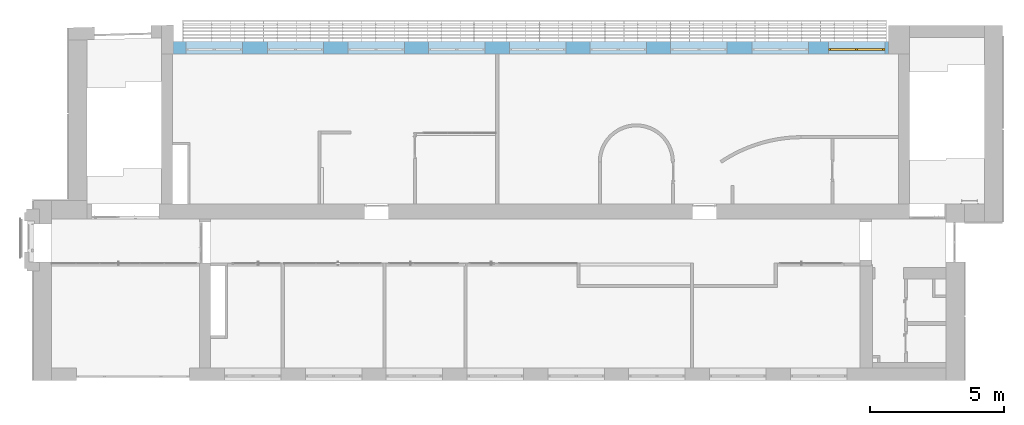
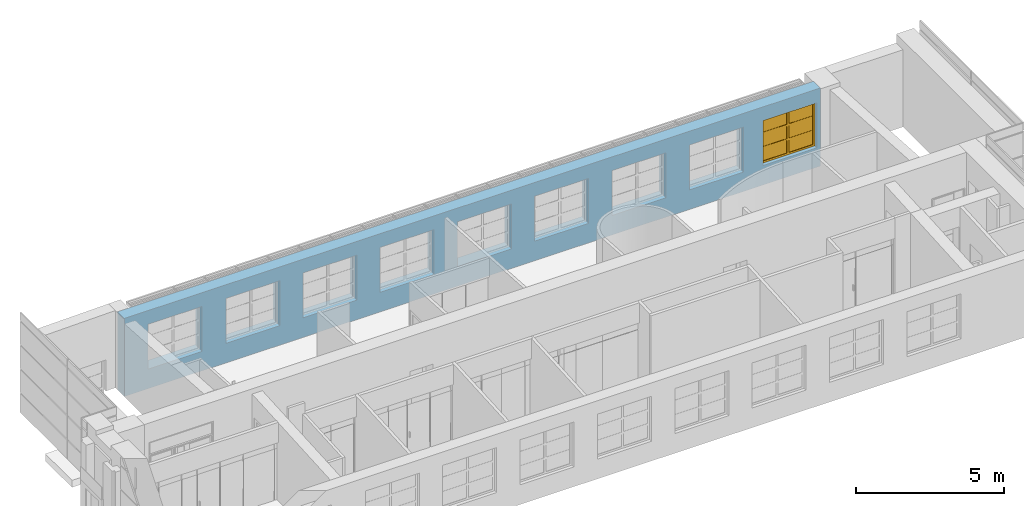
# One storey, part 38 of 46: 1 window, 9 openings, plus 1 element that does not belong to this part.
"""IFC2X3 building model written with IfcOpenShell, lengths in millimetres."""

from ifc_helpers import new_model, entity, si_unit, converted_unit, derived_unit, direction, frame, frame_2d, origin, origin_2d_with_axis, place, context, subcontext, project, spatial, rectangle, extrude, face_set, surface_model, source, transform, mapped, material, material_list, layer, layer_set, layer_usage, type_object, type_shapes, element, fill, save


model = new_model("IFC2X3")

# Units and contexts
model_context = context("Model", 3, precision=0.01, world=origin(), true_north=direction((6.12303176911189e-17, 1.0)))
body_context = subcontext(model_context, "Body", "Model", "MODEL_VIEW")
ifc_project = project(units=[si_unit("LENGTHUNIT", "METRE", prefix="MILLI"), si_unit("AREAUNIT", "SQUARE_METRE"), si_unit("VOLUMEUNIT", "CUBIC_METRE"), converted_unit("PLANEANGLEUNIT", "DEGREE", entity("IfcRatioMeasure", 0.0174532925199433), si_unit("PLANEANGLEUNIT", "RADIAN"), dimensions=[0, 0, 0, 0, 0, 0, 0]), si_unit("MASSUNIT", "GRAM", prefix="KILO"), derived_unit("MASSDENSITYUNIT", [(si_unit("MASSUNIT", "GRAM", prefix="KILO"), 1), (si_unit("LENGTHUNIT", "METRE"), -3)]), si_unit("TIMEUNIT", "SECOND"), si_unit("FREQUENCYUNIT", "HERTZ"), si_unit("THERMODYNAMICTEMPERATUREUNIT", "DEGREE_CELSIUS"), derived_unit("THERMALTRANSMITTANCEUNIT", [(si_unit("MASSUNIT", "GRAM", prefix="KILO"), 1), (si_unit("THERMODYNAMICTEMPERATUREUNIT", "KELVIN"), -1), (si_unit("TIMEUNIT", "SECOND"), -3)]), derived_unit("VOLUMETRICFLOWRATEUNIT", [(si_unit("LENGTHUNIT", "METRE"), 3), (si_unit("TIMEUNIT", "SECOND"), -1)]), si_unit("ELECTRICCURRENTUNIT", "AMPERE"), si_unit("ELECTRICVOLTAGEUNIT", "VOLT"), si_unit("POWERUNIT", "WATT"), si_unit("FORCEUNIT", "NEWTON", prefix="KILO"), si_unit("ILLUMINANCEUNIT", "LUX"), si_unit("LUMINOUSFLUXUNIT", "LUMEN"), si_unit("LUMINOUSINTENSITYUNIT", "CANDELA"), derived_unit("USERDEFINED", [(si_unit("MASSUNIT", "GRAM", prefix="KILO"), -1), (si_unit("LENGTHUNIT", "METRE"), -2), (si_unit("TIMEUNIT", "SECOND"), 3), (si_unit("LUMINOUSFLUXUNIT", "LUMEN"), 1)]), derived_unit("LINEARVELOCITYUNIT", [(si_unit("LENGTHUNIT", "METRE"), 1), (si_unit("TIMEUNIT", "SECOND"), -1)]), si_unit("PRESSUREUNIT", "PASCAL"), derived_unit("USERDEFINED", [(si_unit("LENGTHUNIT", "METRE"), -2), (si_unit("MASSUNIT", "GRAM", prefix="KILO"), 1), (si_unit("TIMEUNIT", "SECOND"), -2)])], contexts=[model_context])

# Site, building, storey
site_placement = place(None, frame((-151.875543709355, 2715.0, 0.0)))
site = spatial("IfcSite", under=ifc_project, at=site_placement, Name="Surface", CompositionType="ELEMENT")
building_placement = place(site_placement, origin())
building = spatial("IfcBuilding", under=site, at=building_placement, CompositionType="ELEMENT")
storey_placement = place(building_placement, frame((0.0, 0.0, 10060.0)))
storey = spatial("IfcBuildingStorey", under=building, at=storey_placement, Name="4 korrus", CompositionType="ELEMENT", Elevation=10060.0000000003)

# Wall, openings, window
ifc_material_1 = material(Name="Brick, Common")
ifc_layer_1 = layer(ifc_material_1, 440.0)
ifc_material_2 = material(Name="__Kips GN13_tava")
ifc_layer_2 = layer(ifc_material_2, 20.0)
ifc_layer_set = layer_set([ifc_layer_1, ifc_layer_2], Name="Basic Wall:VS-1")
ifc_layer_usage = layer_usage(ifc_layer_set, "AXIS2", "POSITIVE", -230.0)
wall_type = type_object("IfcWallType", Name="Basic Wall:VS-1", PredefinedType="STANDARD", material=ifc_layer_set)
wall_placement = place(storey_placement, frame((31602.6162682, 12380.0, 0.0), z_axis=(0.0, 0.0, 1.0), x_axis=(-1.0, 0.0, 0.0)))
wall = element("IfcWallStandardCase", 1, at=wall_placement, inside=storey, type_object=wall_type, material=ifc_layer_usage, Name="SEIN - 005", ObjectType="Basic Wall:VS-1", context=body_context, shape_type="SweptSolid", body=[
    extrude(rectangle(XDim=27061.7433388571, YDim=459.999999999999, at=frame_2d((13530.8716694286, 0.0), x_axis=(-1.0, 0.0))), origin(), (0.0, 0.0, 1.0), 3209.74134984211),
])
opening_1_placement = place(wall_placement, frame((31602.6162682, 12380.0, 0.0), z_axis=(0.0, 0.0, 1.0), x_axis=(-1.0, 0.0, 0.0)))
element("IfcOpeningElement", 2, at=opening_1_placement, cuts=wall, Name="SEIN - 005", ObjectType="Opening", context=body_context, shape_type="SweptSolid", body=[
    extrude(rectangle(XDim=1850.0, YDim=2100.0, at=frame_2d((0.0, -5.6843418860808e-13), x_axis=(1.0, 0.0))), frame((6512.84935535, 13077.9, 1725.0), z_axis=(0.0, -1.0, 0.0), x_axis=(0.0, 0.0, 1.0)), (0.0, 0.0, 1.0), 1393.8),
])
opening_2_placement = place(wall_placement, frame((31602.6162682, 12380.0, 0.0), z_axis=(0.0, 0.0, 1.0), x_axis=(-1.0, 0.0, 0.0)))
element("IfcOpeningElement", 3, at=opening_2_placement, cuts=wall, Name="SEIN - 005", ObjectType="Opening", context=body_context, shape_type="SweptSolid", body=[
    extrude(rectangle(XDim=1850.0, YDim=2100.0, at=frame_2d((0.0, -1.02318153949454e-12), x_axis=(1.0, 0.0))), frame((9532.84935535, 13077.9, 1725.0), z_axis=(0.0, -1.0, 0.0), x_axis=(0.0, 0.0, 1.0)), (0.0, 0.0, 1.0), 1393.8),
])
opening_3_placement = place(wall_placement, frame((31602.6162682, 12380.0, 0.0), z_axis=(0.0, 0.0, 1.0), x_axis=(-1.0, 0.0, 0.0)))
element("IfcOpeningElement", 4, at=opening_3_placement, cuts=wall, Name="SEIN - 005", ObjectType="Opening", context=body_context, shape_type="SweptSolid", body=[
    extrude(rectangle(XDim=1850.0, YDim=2100.0, at=origin_2d_with_axis()), frame((12532.84935535, 13077.9, 1725.0), z_axis=(0.0, -1.0, 0.0), x_axis=(0.0, 0.0, 1.0)), (0.0, 0.0, 1.0), 1393.8),
])
opening_4_placement = place(wall_placement, frame((31602.6162682, 12380.0, 0.0), z_axis=(0.0, 0.0, 1.0), x_axis=(-1.0, 0.0, 0.0)))
element("IfcOpeningElement", 5, at=opening_4_placement, cuts=wall, Name="SEIN - 005", ObjectType="Opening", context=body_context, shape_type="SweptSolid", body=[
    extrude(rectangle(XDim=1850.0, YDim=2100.0, at=origin_2d_with_axis()), frame((15532.84935531, 13077.9, 1725.0), z_axis=(0.0, -1.0, 0.0), x_axis=(0.0, 0.0, 1.0)), (0.0, 0.0, 1.0), 1393.8),
])
opening_5_placement = place(wall_placement, frame((31602.6162682, 12380.0, 0.0), z_axis=(0.0, 0.0, 1.0), x_axis=(-1.0, 0.0, 0.0)))
element("IfcOpeningElement", 6, at=opening_5_placement, cuts=wall, Name="SEIN - 005", ObjectType="Opening", context=body_context, shape_type="SweptSolid", body=[
    extrude(rectangle(XDim=1850.0, YDim=2100.0, at=origin_2d_with_axis()), frame((18542.84935531, 13077.9, 1725.0), z_axis=(0.0, -1.0, 0.0), x_axis=(0.0, 0.0, 1.0)), (0.0, 0.0, 1.0), 1393.8),
])
opening_6_placement = place(wall_placement, frame((31602.6162682, 12380.0, 0.0), z_axis=(0.0, 0.0, 1.0), x_axis=(-1.0, 0.0, 0.0)))
element("IfcOpeningElement", 7, at=opening_6_placement, cuts=wall, Name="SEIN - 005", ObjectType="Opening", context=body_context, shape_type="SweptSolid", body=[
    extrude(rectangle(XDim=1850.0, YDim=2100.0, at=origin_2d_with_axis()), frame((21543.05309771, 13077.9, 1725.0), z_axis=(0.0, -1.0, 0.0), x_axis=(0.0, 0.0, 1.0)), (0.0, 0.0, 1.0), 1393.8),
])
opening_7_placement = place(wall_placement, frame((31602.6162682, 12380.0, 0.0), z_axis=(0.0, 0.0, 1.0), x_axis=(-1.0, 0.0, 0.0)))
element("IfcOpeningElement", 8, at=opening_7_placement, cuts=wall, Name="SEIN - 005", ObjectType="Opening", context=body_context, shape_type="SweptSolid", body=[
    extrude(rectangle(XDim=1850.0, YDim=2100.0, at=origin_2d_with_axis()), frame((24543.05309771, 13077.9, 1725.0), z_axis=(0.0, -1.0, 0.0), x_axis=(0.0, 0.0, 1.0)), (0.0, 0.0, 1.0), 1393.8),
])
opening_8_placement = place(wall_placement, frame((31602.6162682, 12380.0, 0.0), z_axis=(0.0, 0.0, 1.0), x_axis=(-1.0, 0.0, 0.0)))
element("IfcOpeningElement", 9, at=opening_8_placement, cuts=wall, Name="SEIN - 005", ObjectType="Opening", context=body_context, shape_type="SweptSolid", body=[
    extrude(rectangle(XDim=1850.0, YDim=2100.0, at=frame_2d((0.0, 4.32009983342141e-12), x_axis=(1.0, 0.0))), frame((27563.05309771, 13077.9, 1725.0), z_axis=(0.0, -1.0, 0.0), x_axis=(0.0, 0.0, 1.0)), (0.0, 0.0, 1.0), 1393.8),
])
opening_9_placement = place(wall_placement, frame((31602.6162682, 12380.0, 0.0), z_axis=(0.0, 0.0, 1.0), x_axis=(-1.0, 0.0, 0.0)))
opening_9 = element("IfcOpeningElement", 10, at=opening_9_placement, cuts=wall, Name="SEIN - 005", ObjectType="Opening", context=body_context, shape_type="SweptSolid", body=[
    extrude(rectangle(XDim=1850.0, YDim=2100.0, at=origin_2d_with_axis()), frame((30412.57293081, 13077.9, 1725.0), z_axis=(0.0, -1.0, 0.0), x_axis=(0.0, 0.0, 1.0)), (0.0, 0.0, 1.0), 1393.8),
])
ifc_material_3 = material(Name="Paint - Titanium White")
ifc_material_4 = material(Name="Paint - Dark Gray")
ifc_material_5 = material(Name="Glass - Clear Fast")
ifc_material_list_1 = material_list([ifc_material_3, ifc_material_4, ifc_material_5])
ifc_material_list_2 = material_list([ifc_material_3, ifc_material_4, ifc_material_5])
window_style = type_object("IfcWindowStyle", Name="Aken_1850x2100", ConstructionType="NOTDEFINED", OperationType="DOUBLE_PANEL_VERTICAL", ParameterTakesPrecedence=False, Sizeable=False, material=ifc_material_list_2)
shared_shape = source(origin(), body_context, "Body", "SurfaceModel", [
    surface_model("IfcFaceBasedSurfaceModel", [(80.0, -665.9, 1770.0), (80.0, -620.9, 1770.0), (0.0, -620.9, 1770.0), (0.0, -665.9, 1770.0), (80.0, -665.9, 80.0), (80.0, -620.9, 80.0), (80.0, -620.9, 1770.0), (80.0, -665.9, 1770.0), (80.0, -620.9, 1770.0), (80.0, -620.9, 80.0), (0.0, -620.9, 80.0), (0.0, -620.9, 1770.0), (0.0, -665.9, 1770.0), (0.0, -620.9, 1770.0), (0.0, -620.9, 80.0), (0.0, -665.9, 80.0), (80.0, -665.9, 1770.0), (0.0, -665.9, 1770.0), (0.0, -665.9, 80.0), (80.0, -665.9, 80.0), (0.0, -665.9, 80.0), (0.0, -620.9, 80.0), (80.0, -620.9, 80.0), (80.0, -665.9, 80.0), (2020.0, -665.9, 80.0), (2020.0, -620.9, 80.0), (2100.0, -620.9, 80.0), (2100.0, -665.9, 80.0), (2020.0, -665.9, 1770.0), (2020.0, -620.9, 1770.0), (2020.0, -620.9, 80.0), (2020.0, -665.9, 80.0), (2020.0, -620.9, 80.0), (2020.0, -620.9, 1770.0), (2100.0, -620.9, 1770.0), (2100.0, -620.9, 80.0), (2100.0, -665.9, 80.0), (2100.0, -620.9, 80.0), (2100.0, -620.9, 1770.0), (2100.0, -665.9, 1770.0), (2020.0, -665.9, 80.0), (2100.0, -665.9, 80.0), (2100.0, -665.9, 1770.0), (2020.0, -665.9, 1770.0), (2100.0, -665.9, 1770.0), (2100.0, -620.9, 1770.0), (2020.0, -620.9, 1770.0), (2020.0, -665.9, 1770.0), (1010.0, -665.9, 80.0), (1010.0, -620.9, 80.0), (1090.0, -620.9, 80.0), (1090.0, -665.9, 80.0), (1010.0, -665.9, 1770.0), (1010.0, -620.9, 1770.0), (1010.0, -620.9, 80.0), (1010.0, -665.9, 80.0), (1010.0, -620.9, 80.0), (1010.0, -620.9, 1770.0), (1090.0, -620.9, 1770.0), (1090.0, -620.9, 80.0), (1090.0, -665.9, 80.0), (1090.0, -620.9, 80.0), (1090.0, -620.9, 1770.0), (1090.0, -665.9, 1770.0), (1010.0, -665.9, 80.0), (1090.0, -665.9, 80.0), (1090.0, -665.9, 1770.0), (1010.0, -665.9, 1770.0), (1090.0, -665.9, 1770.0), (1090.0, -620.9, 1770.0), (1010.0, -620.9, 1770.0), (1010.0, -665.9, 1770.0), (80.0, -665.9, 80.0), (80.0, -620.9, 80.0), (0.0, -620.9, 80.0), (0.0, -665.9, 80.0), (1010.0, -665.9, 80.0), (1010.0, -620.9, 80.0), (80.0, -620.9, 80.0), (80.0, -665.9, 80.0), (80.0, -620.9, 80.0), (1010.0, -620.9, 80.0), (1090.0, -620.9, 80.0), (2020.0, -620.9, 80.0), (2100.0, -620.9, 80.0), (2100.0, -620.9, 0.0), (0.0, -620.9, 0.0), (0.0, -620.9, 80.0), (0.0, -665.9, 80.0), (0.0, -620.9, 80.0), (0.0, -620.9, 0.0), (0.0, -665.9, 0.0), (80.0, -665.9, 80.0), (0.0, -665.9, 80.0), (0.0, -665.9, 0.0), (2100.0, -665.9, 0.0), (2100.0, -665.9, 80.0), (2020.0, -665.9, 80.0), (1090.0, -665.9, 80.0), (1010.0, -665.9, 80.0), (1090.0, -665.9, 80.0), (1090.0, -620.9, 80.0), (1010.0, -620.9, 80.0), (1010.0, -665.9, 80.0), (2020.0, -665.9, 80.0), (2020.0, -620.9, 80.0), (1090.0, -620.9, 80.0), (1090.0, -665.9, 80.0), (2100.0, -665.9, 80.0), (2100.0, -620.9, 80.0), (2020.0, -620.9, 80.0), (2020.0, -665.9, 80.0), (2100.0, -665.9, 0.0), (2100.0, -620.9, 0.0), (2100.0, -620.9, 80.0), (2100.0, -665.9, 80.0), (0.0, -665.9, 0.0), (0.0, -620.9, 0.0), (2100.0, -620.9, 0.0), (2100.0, -665.9, 0.0), (1010.0, -665.9, 1770.0), (1010.0, -620.9, 1770.0), (1090.0, -620.9, 1770.0), (1090.0, -665.9, 1770.0), (80.0, -665.9, 1770.0), (80.0, -620.9, 1770.0), (1010.0, -620.9, 1770.0), (1010.0, -665.9, 1770.0), (1010.0, -620.9, 1770.0), (80.0, -620.9, 1770.0), (0.0, -620.9, 1770.0), (0.0, -620.9, 1850.0), (2100.0, -620.9, 1850.0), (2100.0, -620.9, 1770.0), (2020.0, -620.9, 1770.0), (1090.0, -620.9, 1770.0), (1090.0, -665.9, 1770.0), (1090.0, -620.9, 1770.0), (2020.0, -620.9, 1770.0), (2020.0, -665.9, 1770.0), (1010.0, -665.9, 1770.0), (1090.0, -665.9, 1770.0), (2020.0, -665.9, 1770.0), (2100.0, -665.9, 1770.0), (2100.0, -665.9, 1850.0), (0.0, -665.9, 1850.0), (0.0, -665.9, 1770.0), (80.0, -665.9, 1770.0), (0.0, -665.9, 1770.0), (0.0, -620.9, 1770.0), (80.0, -620.9, 1770.0), (80.0, -665.9, 1770.0), (0.0, -665.9, 1850.0), (0.0, -620.9, 1850.0), (0.0, -620.9, 1770.0), (0.0, -665.9, 1770.0), (2100.0, -665.9, 1850.0), (2100.0, -620.9, 1850.0), (0.0, -620.9, 1850.0), (0.0, -665.9, 1850.0), (2100.0, -665.9, 1770.0), (2100.0, -620.9, 1770.0), (2100.0, -620.9, 1850.0), (2100.0, -665.9, 1850.0), (2020.0, -665.9, 1770.0), (2020.0, -620.9, 1770.0), (2100.0, -620.9, 1770.0), (2100.0, -665.9, 1770.0), (80.0, -640.9, 590.0), (80.0, -630.9, 590.0), (1010.0, -630.9, 590.0), (1010.0, -640.9, 590.0), (80.0, -640.9, 670.0), (80.0, -630.9, 670.0), (80.0, -630.9, 590.0), (80.0, -640.9, 590.0), (80.0, -630.9, 590.0), (80.0, -630.9, 670.0), (1010.0, -630.9, 670.0), (1010.0, -630.9, 590.0), (1010.0, -640.9, 590.0), (1010.0, -630.9, 590.0), (1010.0, -630.9, 670.0), (1010.0, -640.9, 670.0), (80.0, -640.9, 590.0), (1010.0, -640.9, 590.0), (1010.0, -640.9, 670.0), (80.0, -640.9, 670.0), (1010.0, -640.9, 670.0), (1010.0, -630.9, 670.0), (80.0, -630.9, 670.0), (80.0, -640.9, 670.0), (80.0, -640.9, 1180.0), (80.0, -630.9, 1180.0), (1010.0, -630.9, 1180.0), (1010.0, -640.9, 1180.0), (80.0, -640.9, 1260.0), (80.0, -630.9, 1260.0), (80.0, -630.9, 1180.0), (80.0, -640.9, 1180.0), (80.0, -630.9, 1180.0), (80.0, -630.9, 1260.0), (1010.0, -630.9, 1260.0), (1010.0, -630.9, 1180.0), (1010.0, -640.9, 1180.0), (1010.0, -630.9, 1180.0), (1010.0, -630.9, 1260.0), (1010.0, -640.9, 1260.0), (80.0, -640.9, 1180.0), (1010.0, -640.9, 1180.0), (1010.0, -640.9, 1260.0), (80.0, -640.9, 1260.0), (1010.0, -640.9, 1260.0), (1010.0, -630.9, 1260.0), (80.0, -630.9, 1260.0), (80.0, -640.9, 1260.0), (1090.0, -640.9, 590.0), (1090.0, -630.9, 590.0), (2020.0, -630.9, 590.0), (2020.0, -640.9, 590.0), (1090.0, -640.9, 670.0), (1090.0, -630.9, 670.0), (1090.0, -630.9, 590.0), (1090.0, -640.9, 590.0), (1090.0, -630.9, 590.0), (1090.0, -630.9, 670.0), (2020.0, -630.9, 670.0), (2020.0, -630.9, 590.0), (2020.0, -640.9, 590.0), (2020.0, -630.9, 590.0), (2020.0, -630.9, 670.0), (2020.0, -640.9, 670.0), (1090.0, -640.9, 590.0), (2020.0, -640.9, 590.0), (2020.0, -640.9, 670.0), (1090.0, -640.9, 670.0), (2020.0, -640.9, 670.0), (2020.0, -630.9, 670.0), (1090.0, -630.9, 670.0), (1090.0, -640.9, 670.0), (1090.0, -640.9, 1180.0), (1090.0, -630.9, 1180.0), (2020.0, -630.9, 1180.0), (2020.0, -640.9, 1180.0), (1090.0, -640.9, 1260.0), (1090.0, -630.9, 1260.0), (1090.0, -630.9, 1180.0), (1090.0, -640.9, 1180.0), (1090.0, -630.9, 1180.0), (1090.0, -630.9, 1260.0), (2020.0, -630.9, 1260.0), (2020.0, -630.9, 1180.0), (2020.0, -640.9, 1180.0), (2020.0, -630.9, 1180.0), (2020.0, -630.9, 1260.0), (2020.0, -640.9, 1260.0), (1090.0, -640.9, 1180.0), (2020.0, -640.9, 1180.0), (2020.0, -640.9, 1260.0), (1090.0, -640.9, 1260.0), (2020.0, -640.9, 1260.0), (2020.0, -630.9, 1260.0), (1090.0, -630.9, 1260.0), (1090.0, -640.9, 1260.0)], [face_set([[[0, 1, 2, 3]]]), face_set([[[4, 5, 6, 7]]]), face_set([[[8, 9, 10, 11]]]), face_set([[[12, 13, 14, 15]]]), face_set([[[16, 17, 18, 19]]]), face_set([[[20, 21, 22, 23]]]), face_set([[[24, 25, 26, 27]]]), face_set([[[28, 29, 30, 31]]]), face_set([[[32, 33, 34, 35]]]), face_set([[[36, 37, 38, 39]]]), face_set([[[40, 41, 42, 43]]]), face_set([[[44, 45, 46, 47]]]), face_set([[[48, 49, 50, 51]]]), face_set([[[52, 53, 54, 55]]]), face_set([[[56, 57, 58, 59]]]), face_set([[[60, 61, 62, 63]]]), face_set([[[64, 65, 66, 67]]]), face_set([[[68, 69, 70, 71]]]), face_set([[[72, 73, 74, 75]]]), face_set([[[76, 77, 78, 79]]]), face_set([[[80, 81, 82, 83, 84, 85, 86, 87]]]), face_set([[[88, 89, 90, 91]]]), face_set([[[92, 93, 94, 95, 96, 97, 98, 99]]]), face_set([[[100, 101, 102, 103]]]), face_set([[[104, 105, 106, 107]]]), face_set([[[108, 109, 110, 111]]]), face_set([[[112, 113, 114, 115]]]), face_set([[[116, 117, 118, 119]]]), face_set([[[120, 121, 122, 123]]]), face_set([[[124, 125, 126, 127]]]), face_set([[[128, 129, 130, 131, 132, 133, 134, 135]]]), face_set([[[136, 137, 138, 139]]]), face_set([[[140, 141, 142, 143, 144, 145, 146, 147]]]), face_set([[[148, 149, 150, 151]]]), face_set([[[152, 153, 154, 155]]]), face_set([[[156, 157, 158, 159]]]), face_set([[[160, 161, 162, 163]]]), face_set([[[164, 165, 166, 167]]]), face_set([[[168, 169, 170, 171]]]), face_set([[[172, 173, 174, 175]]]), face_set([[[176, 177, 178, 179]]]), face_set([[[180, 181, 182, 183]]]), face_set([[[184, 185, 186, 187]]]), face_set([[[188, 189, 190, 191]]]), face_set([[[192, 193, 194, 195]]]), face_set([[[196, 197, 198, 199]]]), face_set([[[200, 201, 202, 203]]]), face_set([[[204, 205, 206, 207]]]), face_set([[[208, 209, 210, 211]]]), face_set([[[212, 213, 214, 215]]]), face_set([[[216, 217, 218, 219]]]), face_set([[[220, 221, 222, 223]]]), face_set([[[224, 225, 226, 227]]]), face_set([[[228, 229, 230, 231]]]), face_set([[[232, 233, 234, 235]]]), face_set([[[236, 237, 238, 239]]]), face_set([[[240, 241, 242, 243]]]), face_set([[[244, 245, 246, 247]]]), face_set([[[248, 249, 250, 251]]]), face_set([[[252, 253, 254, 255]]]), face_set([[[256, 257, 258, 259]]]), face_set([[[260, 261, 262, 263]]])]),
    surface_model("IfcFaceBasedSurfaceModel", [(80.0, -620.9, 1770.0), (80.0, -595.9, 1770.0), (0.0, -595.9, 1770.0), (0.0, -620.9, 1770.0), (80.0, -620.9, 80.0), (80.0, -595.9, 80.0), (80.0, -595.9, 1770.0), (80.0, -620.9, 1770.0), (80.0, -595.9, 1770.0), (80.0, -595.9, 80.0), (0.0, -595.9, 80.0), (0.0, -595.9, 1770.0), (0.0, -620.9, 1770.0), (0.0, -595.9, 1770.0), (0.0, -595.9, 80.0), (0.0, -620.9, 80.0), (80.0, -620.9, 1770.0), (0.0, -620.9, 1770.0), (0.0, -620.9, 80.0), (80.0, -620.9, 80.0), (0.0, -620.9, 80.0), (0.0, -595.9, 80.0), (80.0, -595.9, 80.0), (80.0, -620.9, 80.0), (2020.0, -620.9, 80.0), (2020.0, -595.9, 80.0), (2100.0, -595.9, 80.0), (2100.0, -620.9, 80.0), (2020.0, -620.9, 1770.0), (2020.0, -595.9, 1770.0), (2020.0, -595.9, 80.0), (2020.0, -620.9, 80.0), (2020.0, -595.9, 80.0), (2020.0, -595.9, 1770.0), (2100.0, -595.9, 1770.0), (2100.0, -595.9, 80.0), (2100.0, -620.9, 80.0), (2100.0, -595.9, 80.0), (2100.0, -595.9, 1770.0), (2100.0, -620.9, 1770.0), (2020.0, -620.9, 80.0), (2100.0, -620.9, 80.0), (2100.0, -620.9, 1770.0), (2020.0, -620.9, 1770.0), (2100.0, -620.9, 1770.0), (2100.0, -595.9, 1770.0), (2020.0, -595.9, 1770.0), (2020.0, -620.9, 1770.0), (1010.0, -620.9, 80.0), (1010.0, -595.9, 80.0), (1090.0, -595.9, 80.0), (1090.0, -620.9, 80.0), (1010.0, -620.9, 1770.0), (1010.0, -595.9, 1770.0), (1010.0, -595.9, 80.0), (1010.0, -620.9, 80.0), (1010.0, -595.9, 80.0), (1010.0, -595.9, 1770.0), (1090.0, -595.9, 1770.0), (1090.0, -595.9, 80.0), (1090.0, -620.9, 80.0), (1090.0, -595.9, 80.0), (1090.0, -595.9, 1770.0), (1090.0, -620.9, 1770.0), (1010.0, -620.9, 80.0), (1090.0, -620.9, 80.0), (1090.0, -620.9, 1770.0), (1010.0, -620.9, 1770.0), (1090.0, -620.9, 1770.0), (1090.0, -595.9, 1770.0), (1010.0, -595.9, 1770.0), (1010.0, -620.9, 1770.0), (80.0, -620.9, 80.0), (80.0, -595.9, 80.0), (0.0, -595.9, 80.0), (0.0, -620.9, 80.0), (1010.0, -620.9, 80.0), (1010.0, -595.9, 80.0), (80.0, -595.9, 80.0), (80.0, -620.9, 80.0), (80.0, -595.9, 80.0), (1010.0, -595.9, 80.0), (1090.0, -595.9, 80.0), (2020.0, -595.9, 80.0), (2100.0, -595.9, 80.0), (2100.0, -595.9, 0.0), (0.0, -595.9, 0.0), (0.0, -595.9, 80.0), (0.0, -620.9, 80.0), (0.0, -595.9, 80.0), (0.0, -595.9, 0.0), (0.0, -620.9, 0.0), (80.0, -620.9, 80.0), (0.0, -620.9, 80.0), (0.0, -620.9, 0.0), (2100.0, -620.9, 0.0), (2100.0, -620.9, 80.0), (2020.0, -620.9, 80.0), (1090.0, -620.9, 80.0), (1010.0, -620.9, 80.0), (1090.0, -620.9, 80.0), (1090.0, -595.9, 80.0), (1010.0, -595.9, 80.0), (1010.0, -620.9, 80.0), (2020.0, -620.9, 80.0), (2020.0, -595.9, 80.0), (1090.0, -595.9, 80.0), (1090.0, -620.9, 80.0), (2100.0, -620.9, 80.0), (2100.0, -595.9, 80.0), (2020.0, -595.9, 80.0), (2020.0, -620.9, 80.0), (2100.0, -620.9, 0.0), (2100.0, -595.9, 0.0), (2100.0, -595.9, 80.0), (2100.0, -620.9, 80.0), (0.0, -620.9, 0.0), (0.0, -595.9, 0.0), (2100.0, -595.9, 0.0), (2100.0, -620.9, 0.0), (1010.0, -620.9, 1770.0), (1010.0, -595.9, 1770.0), (1090.0, -595.9, 1770.0), (1090.0, -620.9, 1770.0), (80.0, -620.9, 1770.0), (80.0, -595.9, 1770.0), (1010.0, -595.9, 1770.0), (1010.0, -620.9, 1770.0), (1010.0, -595.9, 1770.0), (80.0, -595.9, 1770.0), (0.0, -595.9, 1770.0), (0.0, -595.9, 1850.0), (2100.0, -595.9, 1850.0), (2100.0, -595.9, 1770.0), (2020.0, -595.9, 1770.0), (1090.0, -595.9, 1770.0), (1090.0, -620.9, 1770.0), (1090.0, -595.9, 1770.0), (2020.0, -595.9, 1770.0), (2020.0, -620.9, 1770.0), (1010.0, -620.9, 1770.0), (1090.0, -620.9, 1770.0), (2020.0, -620.9, 1770.0), (2100.0, -620.9, 1770.0), (2100.0, -620.9, 1850.0), (0.0, -620.9, 1850.0), (0.0, -620.9, 1770.0), (80.0, -620.9, 1770.0), (0.0, -620.9, 1770.0), (0.0, -595.9, 1770.0), (80.0, -595.9, 1770.0), (80.0, -620.9, 1770.0), (0.0, -620.9, 1850.0), (0.0, -595.9, 1850.0), (0.0, -595.9, 1770.0), (0.0, -620.9, 1770.0), (2100.0, -620.9, 1850.0), (2100.0, -595.9, 1850.0), (0.0, -595.9, 1850.0), (0.0, -620.9, 1850.0), (2100.0, -620.9, 1770.0), (2100.0, -595.9, 1770.0), (2100.0, -595.9, 1850.0), (2100.0, -620.9, 1850.0), (2020.0, -620.9, 1770.0), (2020.0, -595.9, 1770.0), (2100.0, -595.9, 1770.0), (2100.0, -620.9, 1770.0), (80.0, -630.9, 590.0), (80.0, -600.9, 590.0), (1010.0, -600.9, 590.0), (1010.0, -630.9, 590.0), (80.0, -630.9, 670.0), (80.0, -600.9, 670.0), (80.0, -600.9, 590.0), (80.0, -630.9, 590.0), (80.0, -600.9, 590.0), (80.0, -600.9, 670.0), (1010.0, -600.9, 670.0), (1010.0, -600.9, 590.0), (1010.0, -630.9, 590.0), (1010.0, -600.9, 590.0), (1010.0, -600.9, 670.0), (1010.0, -630.9, 670.0), (80.0, -630.9, 590.0), (1010.0, -630.9, 590.0), (1010.0, -630.9, 670.0), (80.0, -630.9, 670.0), (1010.0, -630.9, 670.0), (1010.0, -600.9, 670.0), (80.0, -600.9, 670.0), (80.0, -630.9, 670.0), (80.0, -630.9, 1180.0), (80.0, -600.9, 1180.0), (1010.0, -600.9, 1180.0), (1010.0, -630.9, 1180.0), (80.0, -630.9, 1260.0), (80.0, -600.9, 1260.0), (80.0, -600.9, 1180.0), (80.0, -630.9, 1180.0), (80.0, -600.9, 1180.0), (80.0, -600.9, 1260.0), (1010.0, -600.9, 1260.0), (1010.0, -600.9, 1180.0), (1010.0, -630.9, 1180.0), (1010.0, -600.9, 1180.0), (1010.0, -600.9, 1260.0), (1010.0, -630.9, 1260.0), (80.0, -630.9, 1180.0), (1010.0, -630.9, 1180.0), (1010.0, -630.9, 1260.0), (80.0, -630.9, 1260.0), (1010.0, -630.9, 1260.0), (1010.0, -600.9, 1260.0), (80.0, -600.9, 1260.0), (80.0, -630.9, 1260.0), (1090.0, -630.9, 590.0), (1090.0, -600.9, 590.0), (2020.0, -600.9, 590.0), (2020.0, -630.9, 590.0), (1090.0, -630.9, 670.0), (1090.0, -600.9, 670.0), (1090.0, -600.9, 590.0), (1090.0, -630.9, 590.0), (1090.0, -600.9, 590.0), (1090.0, -600.9, 670.0), (2020.0, -600.9, 670.0), (2020.0, -600.9, 590.0), (2020.0, -630.9, 590.0), (2020.0, -600.9, 590.0), (2020.0, -600.9, 670.0), (2020.0, -630.9, 670.0), (1090.0, -630.9, 590.0), (2020.0, -630.9, 590.0), (2020.0, -630.9, 670.0), (1090.0, -630.9, 670.0), (2020.0, -630.9, 670.0), (2020.0, -600.9, 670.0), (1090.0, -600.9, 670.0), (1090.0, -630.9, 670.0), (1090.0, -630.9, 1180.0), (1090.0, -600.9, 1180.0), (2020.0, -600.9, 1180.0), (2020.0, -630.9, 1180.0), (1090.0, -630.9, 1260.0), (1090.0, -600.9, 1260.0), (1090.0, -600.9, 1180.0), (1090.0, -630.9, 1180.0), (1090.0, -600.9, 1180.0), (1090.0, -600.9, 1260.0), (2020.0, -600.9, 1260.0), (2020.0, -600.9, 1180.0), (2020.0, -630.9, 1180.0), (2020.0, -600.9, 1180.0), (2020.0, -600.9, 1260.0), (2020.0, -630.9, 1260.0), (1090.0, -630.9, 1180.0), (2020.0, -630.9, 1180.0), (2020.0, -630.9, 1260.0), (1090.0, -630.9, 1260.0), (2020.0, -630.9, 1260.0), (2020.0, -600.9, 1260.0), (1090.0, -600.9, 1260.0), (1090.0, -630.9, 1260.0)], [face_set([[[0, 1, 2, 3]]]), face_set([[[4, 5, 6, 7]]]), face_set([[[8, 9, 10, 11]]]), face_set([[[12, 13, 14, 15]]]), face_set([[[16, 17, 18, 19]]]), face_set([[[20, 21, 22, 23]]]), face_set([[[24, 25, 26, 27]]]), face_set([[[28, 29, 30, 31]]]), face_set([[[32, 33, 34, 35]]]), face_set([[[36, 37, 38, 39]]]), face_set([[[40, 41, 42, 43]]]), face_set([[[44, 45, 46, 47]]]), face_set([[[48, 49, 50, 51]]]), face_set([[[52, 53, 54, 55]]]), face_set([[[56, 57, 58, 59]]]), face_set([[[60, 61, 62, 63]]]), face_set([[[64, 65, 66, 67]]]), face_set([[[68, 69, 70, 71]]]), face_set([[[72, 73, 74, 75]]]), face_set([[[76, 77, 78, 79]]]), face_set([[[80, 81, 82, 83, 84, 85, 86, 87]]]), face_set([[[88, 89, 90, 91]]]), face_set([[[92, 93, 94, 95, 96, 97, 98, 99]]]), face_set([[[100, 101, 102, 103]]]), face_set([[[104, 105, 106, 107]]]), face_set([[[108, 109, 110, 111]]]), face_set([[[112, 113, 114, 115]]]), face_set([[[116, 117, 118, 119]]]), face_set([[[120, 121, 122, 123]]]), face_set([[[124, 125, 126, 127]]]), face_set([[[128, 129, 130, 131, 132, 133, 134, 135]]]), face_set([[[136, 137, 138, 139]]]), face_set([[[140, 141, 142, 143, 144, 145, 146, 147]]]), face_set([[[148, 149, 150, 151]]]), face_set([[[152, 153, 154, 155]]]), face_set([[[156, 157, 158, 159]]]), face_set([[[160, 161, 162, 163]]]), face_set([[[164, 165, 166, 167]]]), face_set([[[168, 169, 170, 171]]]), face_set([[[172, 173, 174, 175]]]), face_set([[[176, 177, 178, 179]]]), face_set([[[180, 181, 182, 183]]]), face_set([[[184, 185, 186, 187]]]), face_set([[[188, 189, 190, 191]]]), face_set([[[192, 193, 194, 195]]]), face_set([[[196, 197, 198, 199]]]), face_set([[[200, 201, 202, 203]]]), face_set([[[204, 205, 206, 207]]]), face_set([[[208, 209, 210, 211]]]), face_set([[[212, 213, 214, 215]]]), face_set([[[216, 217, 218, 219]]]), face_set([[[220, 221, 222, 223]]]), face_set([[[224, 225, 226, 227]]]), face_set([[[228, 229, 230, 231]]]), face_set([[[232, 233, 234, 235]]]), face_set([[[236, 237, 238, 239]]]), face_set([[[240, 241, 242, 243]]]), face_set([[[244, 245, 246, 247]]]), face_set([[[248, 249, 250, 251]]]), face_set([[[252, 253, 254, 255]]]), face_set([[[256, 257, 258, 259]]]), face_set([[[260, 261, 262, 263]]])]),
    surface_model("IfcFaceBasedSurfaceModel", [(1010.0, -630.9, 80.0), (1010.0, -630.9, 590.0), (80.0, -630.9, 590.0), (80.0, -630.9, 80.0), (1010.0, -610.9, 80.0), (80.0, -610.9, 80.0), (80.0, -610.9, 590.0), (1010.0, -610.9, 590.0), (1010.0, -630.9, 670.0), (1010.0, -630.9, 1180.0), (80.0, -630.9, 1180.0), (80.0, -630.9, 670.0), (1010.0, -610.9, 670.0), (80.0, -610.9, 670.0), (80.0, -610.9, 1180.0), (1010.0, -610.9, 1180.0), (1010.0, -630.9, 1260.0), (1010.0, -630.9, 1770.0), (80.0, -630.9, 1770.0), (80.0, -630.9, 1260.0), (1010.0, -610.9, 1260.0), (80.0, -610.9, 1260.0), (80.0, -610.9, 1770.0), (1010.0, -610.9, 1770.0), (2020.0, -630.9, 80.0), (2020.0, -630.9, 590.0), (1090.0, -630.9, 590.0), (1090.0, -630.9, 80.0), (2020.0, -610.9, 80.0), (1090.0, -610.9, 80.0), (1090.0, -610.9, 590.0), (2020.0, -610.9, 590.0), (2020.0, -630.9, 670.0), (2020.0, -630.9, 1180.0), (1090.0, -630.9, 1180.0), (1090.0, -630.9, 670.0), (2020.0, -610.9, 670.0), (1090.0, -610.9, 670.0), (1090.0, -610.9, 1180.0), (2020.0, -610.9, 1180.0), (2020.0, -630.9, 1260.0), (2020.0, -630.9, 1770.0), (1090.0, -630.9, 1770.0), (1090.0, -630.9, 1260.0), (2020.0, -610.9, 1260.0), (1090.0, -610.9, 1260.0), (1090.0, -610.9, 1770.0), (2020.0, -610.9, 1770.0)], [face_set([[[0, 1, 2, 3]]]), face_set([[[4, 5, 6, 7]]]), face_set([[[8, 9, 10, 11]]]), face_set([[[12, 13, 14, 15]]]), face_set([[[16, 17, 18, 19]]]), face_set([[[20, 21, 22, 23]]]), face_set([[[24, 25, 26, 27]]]), face_set([[[28, 29, 30, 31]]]), face_set([[[32, 33, 34, 35]]]), face_set([[[36, 37, 38, 39]]]), face_set([[[40, 41, 42, 43]]]), face_set([[[44, 45, 46, 47]]])]),
])
type_shapes(window_style, [shared_shape])
window_placement = place(opening_9_placement, frame((31462.57293081, 11684.1, 800.0), z_axis=(0.0, 0.0, 1.0), x_axis=(-1.0, 0.0, 0.0)))
window = element("IfcWindow", 11, at=window_placement, inside=storey, type_object=window_style, material=ifc_material_list_1, Name="Aken_1850x2100:Aken_1850x2100", ObjectType="Aken_1850x2100", OverallHeight=2100.0, OverallWidth=1850.0, context=body_context, shape_type="MappedRepresentation", body=[
    mapped(shared_shape, transform((0.0, 0.0, 0.0), scale=1.0)),
])
fill(opening_9, window)

save(model, "model.ifc")
